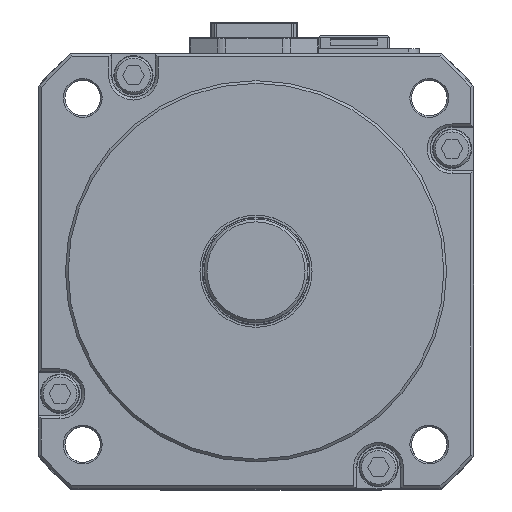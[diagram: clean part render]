
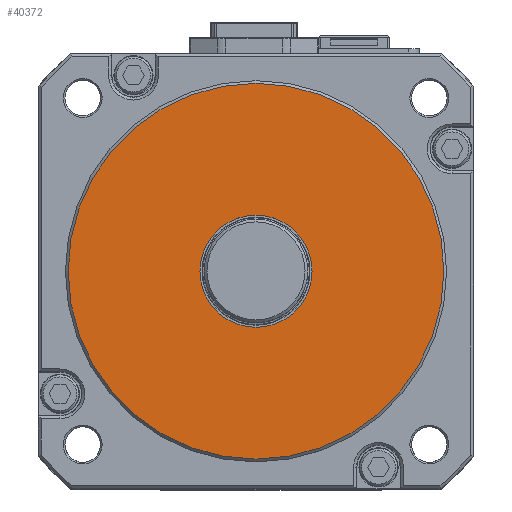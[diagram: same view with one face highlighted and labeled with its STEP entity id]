
A CAD part, top view. The second image highlights one B-rep face of the part: STEP entity #40372.
In plain terms, the highlighted planar face has unit normal (0, 0, 1).
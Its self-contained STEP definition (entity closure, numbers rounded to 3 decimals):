
#2674 = DIRECTION ( 'NONE',  ( 1., 0., 0. ) ) ;
#5973 = AXIS2_PLACEMENT_3D ( 'NONE', #10046, #38704, #49007 ) ;
#7667 = ORIENTED_EDGE ( 'NONE', *, *, #55938, .T. ) ;
#10046 = CARTESIAN_POINT ( 'NONE',  ( 0., 0., 13. ) ) ;
#11955 = FACE_OUTER_BOUND ( 'NONE', #35411, .T. ) ;
#14950 = EDGE_LOOP ( 'NONE', ( #26904 ) ) ;
#15905 = VERTEX_POINT ( 'NONE', #41598 ) ;
#15960 = EDGE_CURVE ( 'NONE', #15905, #15905, #36815, .T. ) ;
#21692 = DIRECTION ( 'NONE',  ( 1., 0., 0. ) ) ;
#22949 = AXIS2_PLACEMENT_3D ( 'NONE', #36834, #41950, #2674 ) ;
#26904 = ORIENTED_EDGE ( 'NONE', *, *, #15960, .F. ) ;
#35411 = EDGE_LOOP ( 'NONE', ( #7667 ) ) ;
#36815 = CIRCLE ( 'NONE', #5973, 10.3 ) ;
#36834 = CARTESIAN_POINT ( 'NONE',  ( 0., 0., 13. ) ) ;
#37295 = CIRCLE ( 'NONE', #22949, 34.5 ) ;
#38272 = FACE_BOUND ( 'NONE', #14950, .T. ) ;
#38704 = DIRECTION ( 'NONE',  ( 0., 0., 1. ) ) ;
#40372 = ADVANCED_FACE ( 'NONE', ( #38272, #11955 ), #42793, .T. ) ;
#41598 = CARTESIAN_POINT ( 'NONE',  ( 10.3, 0., 13. ) ) ;
#41950 = DIRECTION ( 'NONE',  ( 0., 0., 1. ) ) ;
#42793 = PLANE ( 'NONE',  #45638 ) ;
#45638 = AXIS2_PLACEMENT_3D ( 'NONE', #47946, #57600, #21692 ) ;
#47946 = CARTESIAN_POINT ( 'NONE',  ( 0., 0., 13. ) ) ;
#48297 = CARTESIAN_POINT ( 'NONE',  ( 34.5, 0., 13. ) ) ;
#49007 = DIRECTION ( 'NONE',  ( 1., 0., 0. ) ) ;
#49227 = VERTEX_POINT ( 'NONE', #48297 ) ;
#55938 = EDGE_CURVE ( 'NONE', #49227, #49227, #37295, .T. ) ;
#57600 = DIRECTION ( 'NONE',  ( 0., 0., 1. ) ) ;
